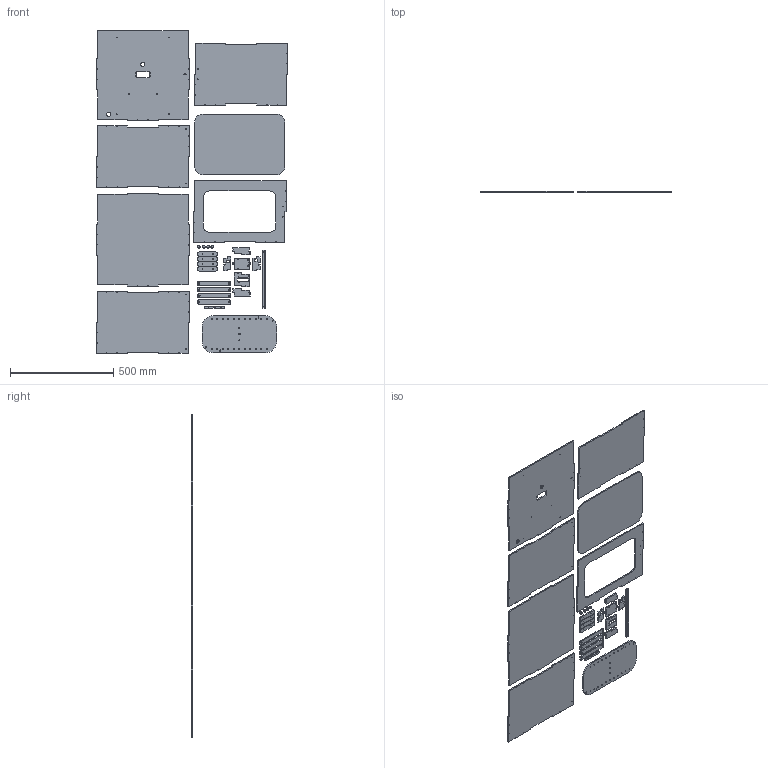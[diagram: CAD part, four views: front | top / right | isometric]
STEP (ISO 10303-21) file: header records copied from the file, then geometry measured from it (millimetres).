
FILE_DESCRIPTION(/* description */ (''),/* implementation_level */ '2;1');
FILE_NAME(/* name */ '/Users/leslieshaw/Desktop/SF_1.8_ABS_cut.step',/* time_stamp */ '2021-10-26T17:13:46-07:00',/* author */ (''),/* organization */ (''),/* preprocessor_version */ 'ST-DEVELOPER v18.1',/* originating_system */ 'Autodesk Translation Framework v10.10.0.1391',/* authorisation */ '');
FILE_SCHEMA (('AUTOMOTIVE_DESIGN { 1 0 10303 214 3 1 1 }'));
Products named in the file (4): SF_1.7_ABS_cut; Phone Fixture Rev. 2.1 ABS Cut v1; arduino_controller_cut; Component1
Assembly tree (3 placements, depth 3):
  SF_1.7_ABS_cut
    Phone Fixture Rev. 2.1 ABS Cut v1
    arduino_controller_cut
      Component1
Bounding box: 925 x 6.04 x 1560 mm (x, y, z)
Volume: 6424258.4 mm3; surface area: 2264330.3 mm2
Topology: 29 solids, 29 shells, 970 faces, 2612 edges, 1742 vertices
Faces by surface type: plane 355, bspline 330, cylinder 279, cone 6
Full cylindrical faces by diameter (mm): 2.5 x84, 3 x22, 3.505 x4, 4 x4, 5.035 x22, 6.5 x8, 7 x2, 12.7 x4, 20 x2
Entity records: 105576 total; most frequent: CARTESIAN_POINT 82560, ORIENTED_EDGE 5224, DIRECTION 3644, EDGE_CURVE 2612, VERTEX_POINT 1742, LINE 1428, VECTOR 1428, EDGE_LOOP 1318
